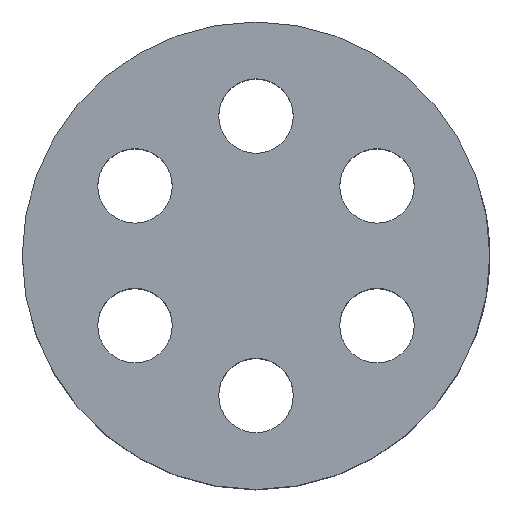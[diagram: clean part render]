
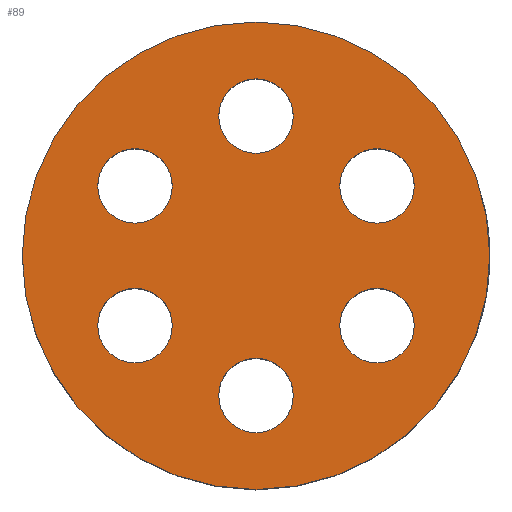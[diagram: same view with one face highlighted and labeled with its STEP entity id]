
A CAD part, top view. The second image highlights one B-rep face of the part: STEP entity #89.
In plain terms, the highlighted planar face has unit normal (0, 0, 1).
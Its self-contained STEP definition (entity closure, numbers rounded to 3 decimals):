
#70 = ORIENTED_EDGE ( 'NONE', *, *, #591, .T. ) ;
#71 = EDGE_LOOP ( 'NONE', ( #72, #74 ) ) ;
#72 = ORIENTED_EDGE ( 'NONE', *, *, #73, .T. ) ;
#73 = EDGE_CURVE ( 'NONE', #567, #571, #756, .T. ) ;
#74 = ORIENTED_EDGE ( 'NONE', *, *, #572, .T. ) ;
#75 = EDGE_LOOP ( 'NONE', ( #76, #128 ) ) ;
#76 = ORIENTED_EDGE ( 'NONE', *, *, #77, .T. ) ;
#77 = EDGE_CURVE ( 'NONE', #562, #554, #751, .T. ) ;
#78 = EDGE_LOOP ( 'NONE', ( #129, #131 ) ) ;
#89 = ADVANCED_FACE ( 'NONE', ( #798, #797, #796, #795, #794, #793, #792 ), #803, .F. ) ;
#90 = EDGE_LOOP ( 'NONE', ( #91, #142 ) ) ;
#91 = ORIENTED_EDGE ( 'NONE', *, *, #141, .T. ) ;
#105 = EDGE_CURVE ( 'NONE', #640, #613, #844, .T. ) ;
#128 = ORIENTED_EDGE ( 'NONE', *, *, #559, .T. ) ;
#129 = ORIENTED_EDGE ( 'NONE', *, *, #130, .T. ) ;
#130 = EDGE_CURVE ( 'NONE', #565, #629, #862, .T. ) ;
#131 = ORIENTED_EDGE ( 'NONE', *, *, #630, .T. ) ;
#132 = EDGE_LOOP ( 'NONE', ( #133, #135 ) ) ;
#133 = ORIENTED_EDGE ( 'NONE', *, *, #134, .T. ) ;
#134 = EDGE_CURVE ( 'NONE', #661, #602, #856, .T. ) ;
#135 = ORIENTED_EDGE ( 'NONE', *, *, #601, .T. ) ;
#136 = EDGE_LOOP ( 'NONE', ( #137, #138 ) ) ;
#137 = ORIENTED_EDGE ( 'NONE', *, *, #612, .T. ) ;
#138 = ORIENTED_EDGE ( 'NONE', *, *, #105, .T. ) ;
#141 = EDGE_CURVE ( 'NONE', #508, #509, #903, .T. ) ;
#142 = ORIENTED_EDGE ( 'NONE', *, *, #511, .T. ) ;
#143 = EDGE_LOOP ( 'NONE', ( #144, #70 ) ) ;
#144 = ORIENTED_EDGE ( 'NONE', *, *, #145, .T. ) ;
#145 = EDGE_CURVE ( 'NONE', #575, #579, #898, .T. ) ;
#508 = VERTEX_POINT ( 'NONE', #1459 ) ;
#509 = VERTEX_POINT ( 'NONE', #1458 ) ;
#511 = EDGE_CURVE ( 'NONE', #509, #508, #1457, .T. ) ;
#554 = VERTEX_POINT ( 'NONE', #1544 ) ;
#559 = EDGE_CURVE ( 'NONE', #554, #562, #1537, .T. ) ;
#562 = VERTEX_POINT ( 'NONE', #1527 ) ;
#565 = VERTEX_POINT ( 'NONE', #1521 ) ;
#567 = VERTEX_POINT ( 'NONE', #1520 ) ;
#571 = VERTEX_POINT ( 'NONE', #1579 ) ;
#572 = EDGE_CURVE ( 'NONE', #571, #567, #1578, .T. ) ;
#575 = VERTEX_POINT ( 'NONE', #1573 ) ;
#579 = VERTEX_POINT ( 'NONE', #1565 ) ;
#591 = EDGE_CURVE ( 'NONE', #579, #575, #1607, .T. ) ;
#601 = EDGE_CURVE ( 'NONE', #602, #661, #1585, .T. ) ;
#602 = VERTEX_POINT ( 'NONE', #1642 ) ;
#612 = EDGE_CURVE ( 'NONE', #613, #640, #1625, .T. ) ;
#613 = VERTEX_POINT ( 'NONE', #1620 ) ;
#629 = VERTEX_POINT ( 'NONE', #1657 ) ;
#630 = EDGE_CURVE ( 'NONE', #629, #565, #1656, .T. ) ;
#640 = VERTEX_POINT ( 'NONE', #1696 ) ;
#661 = VERTEX_POINT ( 'NONE', #1716 ) ;
#750 = AXIS2_PLACEMENT_3D ( 'NONE', #813, #812, #811 ) ;
#751 = CIRCLE ( 'NONE', #750, 2. ) ;
#752 = DIRECTION ( 'NONE',  ( 1., 0., 0. ) ) ;
#753 = DIRECTION ( 'NONE',  ( 0., 0., -1. ) ) ;
#754 = CARTESIAN_POINT ( 'NONE',  ( 0., -7.5, 0. ) ) ;
#755 = AXIS2_PLACEMENT_3D ( 'NONE', #754, #753, #752 ) ;
#756 = CIRCLE ( 'NONE', #755, 2. ) ;
#788 = DIRECTION ( 'NONE',  ( -1., 0., 0. ) ) ;
#789 = DIRECTION ( 'NONE',  ( 0., 0., -1. ) ) ;
#790 = CARTESIAN_POINT ( 'NONE',  ( 0., 0., 0. ) ) ;
#791 = AXIS2_PLACEMENT_3D ( 'NONE', #790, #789, #788 ) ;
#792 = FACE_OUTER_BOUND ( 'NONE', #136, .T. ) ;
#793 = FACE_BOUND ( 'NONE', #132, .T. ) ;
#794 = FACE_BOUND ( 'NONE', #78, .T. ) ;
#795 = FACE_BOUND ( 'NONE', #75, .T. ) ;
#796 = FACE_BOUND ( 'NONE', #71, .T. ) ;
#797 = FACE_BOUND ( 'NONE', #143, .T. ) ;
#798 = FACE_BOUND ( 'NONE', #90, .T. ) ;
#803 = PLANE ( 'NONE',  #791 ) ;
#811 = DIRECTION ( 'NONE',  ( 0.5, 0.866, 0. ) ) ;
#812 = DIRECTION ( 'NONE',  ( 0., 0., -1. ) ) ;
#813 = CARTESIAN_POINT ( 'NONE',  ( 6.495, -3.75, 0. ) ) ;
#841 = DIRECTION ( 'NONE',  ( 1., 0., 0. ) ) ;
#842 = DIRECTION ( 'NONE',  ( 0., 0., 1. ) ) ;
#843 = AXIS2_PLACEMENT_3D ( 'NONE', #850, #842, #841 ) ;
#844 = CIRCLE ( 'NONE', #843, 12.55 ) ;
#850 = CARTESIAN_POINT ( 'NONE',  ( 0., 0., 0. ) ) ;
#852 = DIRECTION ( 'NONE',  ( -1., 0., 0. ) ) ;
#853 = DIRECTION ( 'NONE',  ( 0., 0., -1. ) ) ;
#854 = CARTESIAN_POINT ( 'NONE',  ( 0., 7.5, 0. ) ) ;
#855 = AXIS2_PLACEMENT_3D ( 'NONE', #854, #853, #852 ) ;
#856 = CIRCLE ( 'NONE', #855, 2. ) ;
#858 = DIRECTION ( 'NONE',  ( -0.5, 0.866, 0. ) ) ;
#859 = DIRECTION ( 'NONE',  ( 0., 0., -1. ) ) ;
#860 = CARTESIAN_POINT ( 'NONE',  ( 6.495, 3.75, 0. ) ) ;
#861 = AXIS2_PLACEMENT_3D ( 'NONE', #860, #859, #858 ) ;
#862 = CIRCLE ( 'NONE', #861, 2. ) ;
#894 = DIRECTION ( 'NONE',  ( 0.5, -0.866, 0. ) ) ;
#895 = DIRECTION ( 'NONE',  ( 0., 0., -1. ) ) ;
#896 = CARTESIAN_POINT ( 'NONE',  ( -6.495, -3.75, 0. ) ) ;
#897 = AXIS2_PLACEMENT_3D ( 'NONE', #896, #895, #894 ) ;
#898 = CIRCLE ( 'NONE', #897, 2. ) ;
#899 = DIRECTION ( 'NONE',  ( -0.5, -0.866, 0. ) ) ;
#900 = DIRECTION ( 'NONE',  ( 0., 0., -1. ) ) ;
#901 = CARTESIAN_POINT ( 'NONE',  ( -6.495, 3.75, 0. ) ) ;
#902 = AXIS2_PLACEMENT_3D ( 'NONE', #901, #900, #899 ) ;
#903 = CIRCLE ( 'NONE', #902, 2. ) ;
#1453 = DIRECTION ( 'NONE',  ( -0.5, -0.866, 0. ) ) ;
#1454 = DIRECTION ( 'NONE',  ( 0., 0., -1. ) ) ;
#1455 = CARTESIAN_POINT ( 'NONE',  ( -6.495, 3.75, 0. ) ) ;
#1456 = AXIS2_PLACEMENT_3D ( 'NONE', #1455, #1454, #1453 ) ;
#1457 = CIRCLE ( 'NONE', #1456, 2. ) ;
#1458 = CARTESIAN_POINT ( 'NONE',  ( -4.495, 3.75, 0. ) ) ;
#1459 = CARTESIAN_POINT ( 'NONE',  ( -8.495, 3.75, 0. ) ) ;
#1520 = CARTESIAN_POINT ( 'NONE',  ( -2., -7.5, 0. ) ) ;
#1521 = CARTESIAN_POINT ( 'NONE',  ( 4.495, 3.75, 0. ) ) ;
#1527 = CARTESIAN_POINT ( 'NONE',  ( 4.495, -3.75, 0. ) ) ;
#1533 = DIRECTION ( 'NONE',  ( 0.5, 0.866, 0. ) ) ;
#1534 = DIRECTION ( 'NONE',  ( 0., 0., -1. ) ) ;
#1535 = CARTESIAN_POINT ( 'NONE',  ( 6.495, -3.75, 0. ) ) ;
#1536 = AXIS2_PLACEMENT_3D ( 'NONE', #1535, #1534, #1533 ) ;
#1537 = CIRCLE ( 'NONE', #1536, 2. ) ;
#1544 = CARTESIAN_POINT ( 'NONE',  ( 8.495, -3.75, 0. ) ) ;
#1565 = CARTESIAN_POINT ( 'NONE',  ( -4.495, -3.75, 0. ) ) ;
#1573 = CARTESIAN_POINT ( 'NONE',  ( -8.495, -3.75, 0. ) ) ;
#1574 = DIRECTION ( 'NONE',  ( 1., 0., 0. ) ) ;
#1575 = DIRECTION ( 'NONE',  ( 0., 0., -1. ) ) ;
#1576 = CARTESIAN_POINT ( 'NONE',  ( 0., -7.5, 0. ) ) ;
#1577 = AXIS2_PLACEMENT_3D ( 'NONE', #1576, #1575, #1574 ) ;
#1578 = CIRCLE ( 'NONE', #1577, 2. ) ;
#1579 = CARTESIAN_POINT ( 'NONE',  ( 2., -7.5, 0. ) ) ;
#1584 = AXIS2_PLACEMENT_3D ( 'NONE', #1645, #1644, #1643 ) ;
#1585 = CIRCLE ( 'NONE', #1584, 2. ) ;
#1604 = DIRECTION ( 'NONE',  ( 0.5, -0.866, 0. ) ) ;
#1605 = DIRECTION ( 'NONE',  ( 0., 0., -1. ) ) ;
#1606 = AXIS2_PLACEMENT_3D ( 'NONE', #1611, #1605, #1604 ) ;
#1607 = CIRCLE ( 'NONE', #1606, 2. ) ;
#1611 = CARTESIAN_POINT ( 'NONE',  ( -6.495, -3.75, 0. ) ) ;
#1620 = CARTESIAN_POINT ( 'NONE',  ( 12.55, 0., 0. ) ) ;
#1621 = DIRECTION ( 'NONE',  ( 1., 0., 0. ) ) ;
#1622 = DIRECTION ( 'NONE',  ( 0., 0., 1. ) ) ;
#1623 = CARTESIAN_POINT ( 'NONE',  ( 0., 0., 0. ) ) ;
#1624 = AXIS2_PLACEMENT_3D ( 'NONE', #1623, #1622, #1621 ) ;
#1625 = CIRCLE ( 'NONE', #1624, 12.55 ) ;
#1642 = CARTESIAN_POINT ( 'NONE',  ( 2., 7.5, 0. ) ) ;
#1643 = DIRECTION ( 'NONE',  ( -1., 0., 0. ) ) ;
#1644 = DIRECTION ( 'NONE',  ( 0., 0., -1. ) ) ;
#1645 = CARTESIAN_POINT ( 'NONE',  ( 0., 7.5, 0. ) ) ;
#1652 = DIRECTION ( 'NONE',  ( -0.5, 0.866, 0. ) ) ;
#1653 = DIRECTION ( 'NONE',  ( 0., 0., -1. ) ) ;
#1654 = CARTESIAN_POINT ( 'NONE',  ( 6.495, 3.75, 0. ) ) ;
#1655 = AXIS2_PLACEMENT_3D ( 'NONE', #1654, #1653, #1652 ) ;
#1656 = CIRCLE ( 'NONE', #1655, 2. ) ;
#1657 = CARTESIAN_POINT ( 'NONE',  ( 8.495, 3.75, 0. ) ) ;
#1696 = CARTESIAN_POINT ( 'NONE',  ( -12.55, 0., 0. ) ) ;
#1716 = CARTESIAN_POINT ( 'NONE',  ( -2., 7.5, 0. ) ) ;
